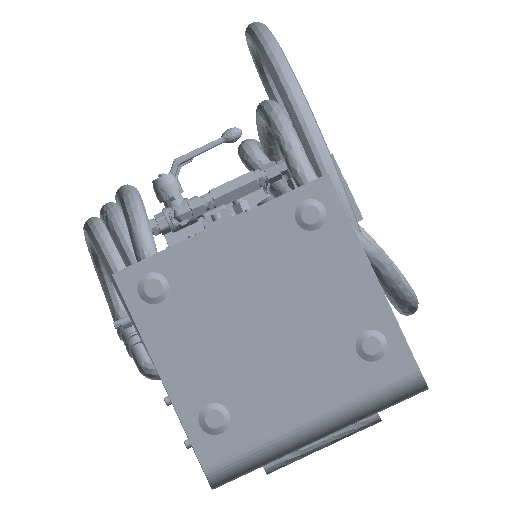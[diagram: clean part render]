
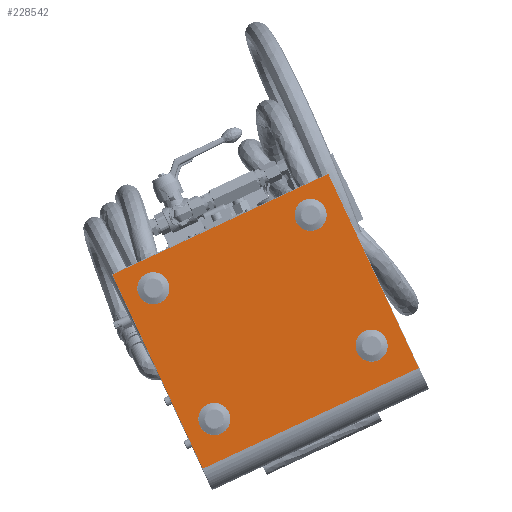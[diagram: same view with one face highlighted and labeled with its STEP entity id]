
A CAD part, top view. The second image highlights one B-rep face of the part: STEP entity #228542.
In plain terms, the highlighted free-form (B-spline) face has degree [1, 1] with [2, 2] control points.
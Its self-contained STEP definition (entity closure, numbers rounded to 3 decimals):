
#10164=CARTESIAN_POINT('V2924',(28.938,
   103.737,158.182));
#10165=VERTEX_POINT('V2924',#10164);
#10181=CARTESIAN_POINT('E4470',(28.938,
   103.737,158.182));
#10182=CARTESIAN_POINT('E4470',(16.049,
   131.368,158.182));
#10183=CARTESIAN_POINT('E4470',(46.422,
   128.715,158.182));
#10184=CARTESIAN_POINT('E4470',(76.795,
   126.061,158.182));
#10185=CARTESIAN_POINT('E4470',(59.311,
   101.084,158.182));
#10186=CARTESIAN_POINT('E4470',(41.827,
   76.107,158.182));
#10187=CARTESIAN_POINT('E4470',(28.938,
   103.737,158.182));
#10195=(BOUNDED_CURVE()B_SPLINE_CURVE(2,(#10181,#10182,#10183,
   #10184,#10185,#10186,#10187),.CIRCULAR_ARC.,.T.,.U.)
   B_SPLINE_CURVE_WITH_KNOTS((3,2,2,3),(2.0,184.107,
   366.214,548.322),.UNSPECIFIED.)CURVE()
   GEOMETRIC_REPRESENTATION_ITEM()RATIONAL_B_SPLINE_CURVE((1.0,
   0.5,1.0,0.5,1.0,0.5,1.0)
   )REPRESENTATION_ITEM('E4470'));
#10196=EDGE_CURVE('E4470',#10165,#10165,#10195,.T.);
#10402=CARTESIAN_POINT('V2925',(-143.249,
   23.416,158.182));
#10403=VERTEX_POINT('V2925',#10402);
#10419=CARTESIAN_POINT('E4471',(-143.249,
   23.416,158.182));
#10420=CARTESIAN_POINT('E4471',(-156.138,
   51.047,158.182));
#10421=CARTESIAN_POINT('E4471',(-125.765,
   48.393,158.182));
#10422=CARTESIAN_POINT('E4471',(-95.392,
   45.74,158.182));
#10423=CARTESIAN_POINT('E4471',(-112.876,
   20.763,158.182));
#10424=CARTESIAN_POINT('E4471',(-130.36,
   -4.214,158.182));
#10425=CARTESIAN_POINT('E4471',(-143.249,
   23.416,158.182));
#10433=(BOUNDED_CURVE()B_SPLINE_CURVE(2,(#10419,#10420,#10421,
   #10422,#10423,#10424,#10425),.CIRCULAR_ARC.,.T.,.U.)
   B_SPLINE_CURVE_WITH_KNOTS((3,2,2,3),(2.0,184.107,
   366.214,548.322),.UNSPECIFIED.)CURVE()
   GEOMETRIC_REPRESENTATION_ITEM()RATIONAL_B_SPLINE_CURVE((1.0,
   0.5,1.0,0.5,1.0,0.5,1.0)
   )REPRESENTATION_ITEM('E4471'));
#10434=EDGE_CURVE('E4471',#10403,#10403,#10433,.T.);
#10640=CARTESIAN_POINT('V2926',(-76.456,
   -119.771,158.182));
#10641=VERTEX_POINT('V2926',#10640);
#10657=CARTESIAN_POINT('E4472',(-76.456,
   -119.771,158.182));
#10658=CARTESIAN_POINT('E4472',(-89.345,
   -92.141,158.182));
#10659=CARTESIAN_POINT('E4472',(-58.972,
   -94.794,158.182));
#10660=CARTESIAN_POINT('E4472',(-28.599,
   -97.447,158.182));
#10661=CARTESIAN_POINT('E4472',(-46.083,
   -122.424,158.182));
#10662=CARTESIAN_POINT('E4472',(-63.567,
   -147.402,158.182));
#10663=CARTESIAN_POINT('E4472',(-76.456,
   -119.771,158.182));
#10671=(BOUNDED_CURVE()B_SPLINE_CURVE(2,(#10657,#10658,#10659,
   #10660,#10661,#10662,#10663),.CIRCULAR_ARC.,.T.,.U.)
   B_SPLINE_CURVE_WITH_KNOTS((3,2,2,3),(2.0,184.107,
   366.214,548.322),.UNSPECIFIED.)CURVE()
   GEOMETRIC_REPRESENTATION_ITEM()RATIONAL_B_SPLINE_CURVE((1.0,
   0.5,1.0,0.5,1.0,0.5,1.0)
   )REPRESENTATION_ITEM('E4472'));
#10672=EDGE_CURVE('E4472',#10641,#10641,#10671,.T.);
#10878=CARTESIAN_POINT('V2927',(95.732,
   -39.45,158.182));
#10879=VERTEX_POINT('V2927',#10878);
#10895=CARTESIAN_POINT('E4473',(95.732,
   -39.45,158.182));
#10896=CARTESIAN_POINT('E4473',(82.843,
   -11.82,158.182));
#10897=CARTESIAN_POINT('E4473',(113.216,
   -14.473,158.182));
#10898=CARTESIAN_POINT('E4473',(143.589,
   -17.126,158.182));
#10899=CARTESIAN_POINT('E4473',(126.105,
   -42.103,158.182));
#10900=CARTESIAN_POINT('E4473',(108.62,
   -67.081,158.182));
#10901=CARTESIAN_POINT('E4473',(95.732,
   -39.45,158.182));
#10909=(BOUNDED_CURVE()B_SPLINE_CURVE(2,(#10895,#10896,#10897,
   #10898,#10899,#10900,#10901),.CIRCULAR_ARC.,.T.,.U.)
   B_SPLINE_CURVE_WITH_KNOTS((3,2,2,3),(2.0,184.107,
   366.214,548.322),.UNSPECIFIED.)CURVE()
   GEOMETRIC_REPRESENTATION_ITEM()RATIONAL_B_SPLINE_CURVE((1.0,
   0.5,1.0,0.5,1.0,0.5,1.0)
   )REPRESENTATION_ITEM('E4473'));
#10910=EDGE_CURVE('E4473',#10879,#10879,#10909,.T.);
#227312=CARTESIAN_POINT('V2922',(-172.302,
   45.726,158.182));
#227313=VERTEX_POINT('V2922',#227312);
#227359=CARTESIAN_POINT('V2923',(-73.169,
   -166.789,158.182));
#227360=VERTEX_POINT('V2923',#227359);
#227374=CARTESIAN_POINT('E4468',(-172.302,
   45.726,158.182));
#227375=CARTESIAN_POINT('E4468',(-73.169,
   -166.789,158.182));
#227376=B_SPLINE_CURVE_WITH_KNOTS('E4468',1,(#227374,#227375),
   .POLYLINE_FORM.,.F.,.U.,(2,2),(2.0,300.575),
   .UNSPECIFIED.);
#227377=EDGE_CURVE('E4468',#227313,#227360,#227376,.T.);
#228484=CARTESIAN_POINT('V2921',(64.23,
   156.062,158.182));
#228485=VERTEX_POINT('V2921',#228484);
#228501=CARTESIAN_POINT('E4467',(64.23,
   156.062,158.182));
#228502=CARTESIAN_POINT('E4467',(-172.302,
   45.726,158.182));
#228503=B_SPLINE_CURVE_WITH_KNOTS('E4467',1,(#228501,#228502),
   .POLYLINE_FORM.,.F.,.U.,(2,2),(2.637,
   334.952),.UNSPECIFIED.);
#228504=EDGE_CURVE('E4467',#228485,#227313,#228503,.T.);
#228509=CARTESIAN_POINT('F1651',(163.991,
   -56.381,158.182));
#228510=CARTESIAN_POINT('F1651',(64.478,
   156.95,158.182));
#228511=CARTESIAN_POINT('F1651',(-73.718,
   -167.267,158.182));
#228512=CARTESIAN_POINT('F1651',(-173.232,
   46.065,158.182));
#228513=B_SPLINE_SURFACE_WITH_KNOTS('F1651',1,1,((#228509,#228511),
   (#228510,#228512)),.PLANE_SURF.,.F.,.F.,.U.,(2,2),(2,2),(0.0,
   1.0),(0.0,1.114),.UNSPECIFIED.);
#228514=CARTESIAN_POINT('V2920',(163.363,
   -56.454,158.182));
#228515=VERTEX_POINT('V2920',#228514);
#228516=CARTESIAN_POINT('E4466',(163.363,
   -56.454,158.182));
#228517=CARTESIAN_POINT('E4466',(64.23,
   156.062,158.182));
#228518=B_SPLINE_CURVE_WITH_KNOTS('E4466',1,(#228516,#228517),
   .POLYLINE_FORM.,.F.,.U.,(2,2),(2.0,300.575),
   .UNSPECIFIED.);
#228519=EDGE_CURVE('E4466',#228515,#228485,#228518,.T.);
#228520=ORIENTED_EDGE('E4466',*,*,#228519,.T.);
#228521=ORIENTED_EDGE('F1671',*,*,#228504,.T.);
#228522=ORIENTED_EDGE('F1688',*,*,#227377,.T.);
#228523=CARTESIAN_POINT('E4469',(163.363,
   -56.454,158.182));
#228524=CARTESIAN_POINT('E4469',(-73.169,
   -166.789,158.182));
#228525=B_SPLINE_CURVE_WITH_KNOTS('E4469',1,(#228523,#228524),
   .POLYLINE_FORM.,.F.,.U.,(2,2),(0.002,
   0.998),.UNSPECIFIED.);
#228526=EDGE_CURVE('E4469',#228515,#227360,#228525,.T.);
#228527=ORIENTED_EDGE('E4469',*,*,#228526,.F.);
#228528=EDGE_LOOP('F1651',(#228520,#228521,#228522,#228527));
#228529=FACE_OUTER_BOUND('F1651',#228528,.T.);
#228530=ORIENTED_EDGE('F1753',*,*,#10910,.T.);
#228531=EDGE_LOOP('F1651',(#228530));
#228532=FACE_BOUND('F1651',#228531,.T.);
#228533=ORIENTED_EDGE('F1752',*,*,#10672,.T.);
#228534=EDGE_LOOP('F1651',(#228533));
#228535=FACE_BOUND('F1651',#228534,.T.);
#228536=ORIENTED_EDGE('F1751',*,*,#10434,.T.);
#228537=EDGE_LOOP('F1651',(#228536));
#228538=FACE_BOUND('F1651',#228537,.T.);
#228539=ORIENTED_EDGE('F1750',*,*,#10196,.T.);
#228540=EDGE_LOOP('F1651',(#228539));
#228541=FACE_BOUND('F1651',#228540,.T.);
#228542=ADVANCED_FACE('F1651',(#228529,#228532,#228535,#228538,
   #228541),#228513,.T.);
